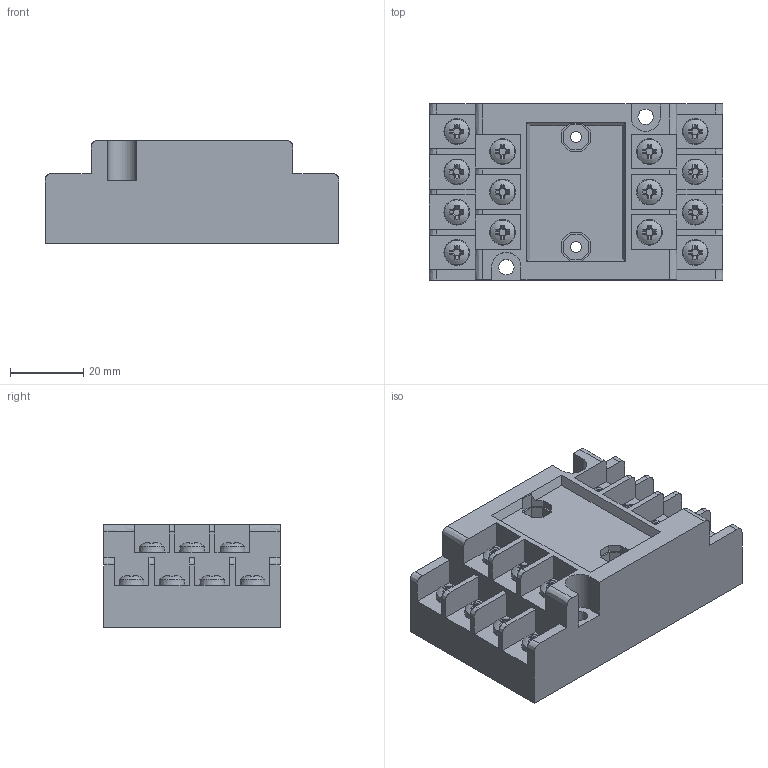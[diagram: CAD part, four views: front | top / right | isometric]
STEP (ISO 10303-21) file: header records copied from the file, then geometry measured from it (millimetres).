
FILE_DESCRIPTION((''),'2;1');
FILE_NAME('K:\TB\Bibliotheek\Inventor\Relais voeten\V22BR\V22BR.stp','2008-08-18T09:36:04',('Niriawan'),(''),'Autodesk Inventor 2009','Autodesk Inventor 2009','');
FILE_SCHEMA(('AUTOMOTIVE_DESIGN { 1 0 10303 214 1 1 1 1 }'));
Length unit declared in the file: millimetre
Products named in the file (1): V22BR
Bounding box: 80 x 48 x 28 mm (x, y, z)
Volume: 79848 mm3; surface area: 19754.4 mm2
Topology: 1 solids, 15 shells, 613 faces, 1730 edges, 1150 vertices
Faces by surface type: plane 365, cone 182, bspline 50, sphere 14, cylinder 2
Entity records: 20706 total; most frequent: CARTESIAN_POINT 5656, ORIENTED_EDGE 3248, DIRECTION 2952, EDGE_CURVE 1624, VERTEX_POINT 1104, AXIS2_PLACEMENT_3D 1080, VECTOR 792, LINE 792
